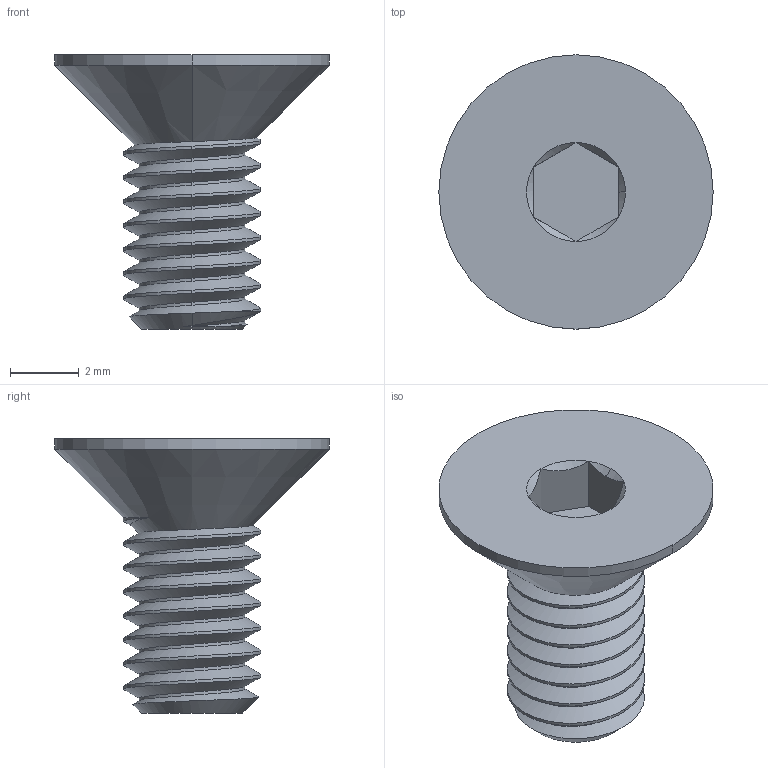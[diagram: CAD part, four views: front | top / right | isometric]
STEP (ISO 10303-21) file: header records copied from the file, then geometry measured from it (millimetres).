
FILE_DESCRIPTION (( 'STEP AP203' ), '1' );
FILE_NAME ('92125A188.step', '2014-02-20T13:42:20', ( 'Admin' ), ( 'Microsoft' ), 'SwSTEP 2.0', 'SolidWorks 2012', '' );
FILE_SCHEMA (( 'CONFIG_CONTROL_DESIGN' ));
Length unit declared in the file: millimetre
Products named in the file (1): 92125A188
Bounding box: 8 x 8 x 8 mm (x, y, z)
Volume: 121.4 mm3; surface area: 240.4 mm2
Topology: 1 solids, 1 shells, 58 faces, 150 edges, 95 vertices
Faces by surface type: cylinder 34, cone 13, plane 9, bspline 2
Entity records: 2760 total; most frequent: CARTESIAN_POINT 1488, ORIENTED_EDGE 300, DIRECTION 201, EDGE_CURVE 150, VERTEX_POINT 95, AXIS2_PLACEMENT_3D 75, EDGE_LOOP 59, ADVANCED_FACE 58
